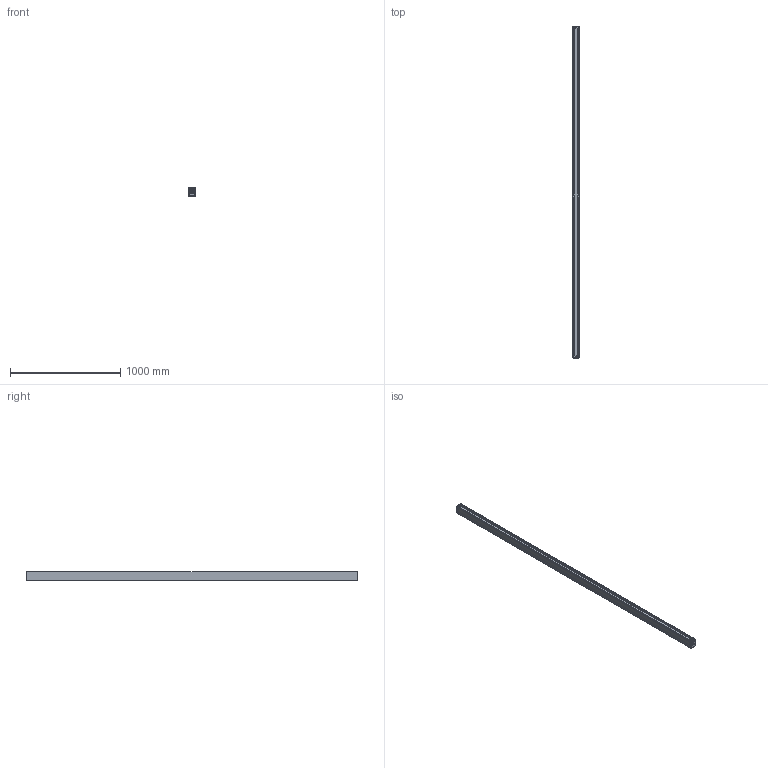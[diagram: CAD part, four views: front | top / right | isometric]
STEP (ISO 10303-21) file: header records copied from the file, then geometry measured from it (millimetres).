
FILE_DESCRIPTION(/* description */ (''),/* implementation_level */ '2;1');
FILE_NAME(/* name */ 'KISSL3~1',/* time_stamp */ '2026-04-27T15:57:36+02:00',/* author */ (''),/* organization */ (''),/* preprocessor_version */ 'ST-DEVELOPER v16.5',/* originating_system */ '',/* authorisation */ '');
FILE_SCHEMA (('AUTOMOTIVE_DESIGN'));
Products named in the file (1): Document
Bounding box: 55 x 3013.48 x 75 mm (x, y, z)
Volume: 1233060.9 mm3; surface area: 2522419.9 mm2
Topology: 7 solids, 7 shells, 2006 faces, 5654 edges, 3662 vertices
Faces by surface type: bspline 2006
Entity records: 162350 total; most frequent: CARTESIAN_POINT 91294, B_SPLINE_CURVE_WITH_KNOTS 14838, ORIENTED_EDGE 11284, PCURVE 11284, DEFINITIONAL_REPRESENTATION 11284, SURFACE_CURVE 5642, EDGE_CURVE 5642, VERTEX_POINT 3662
